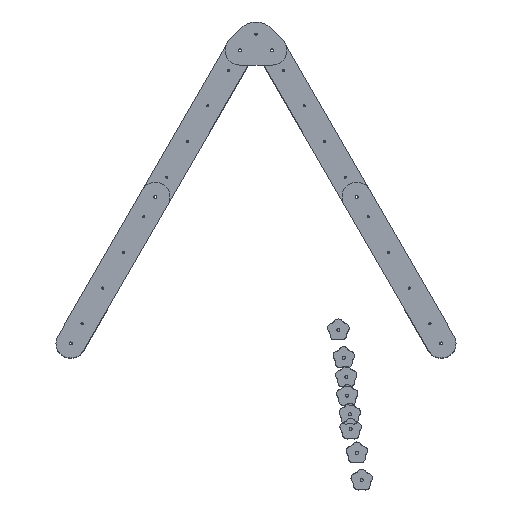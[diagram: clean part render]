
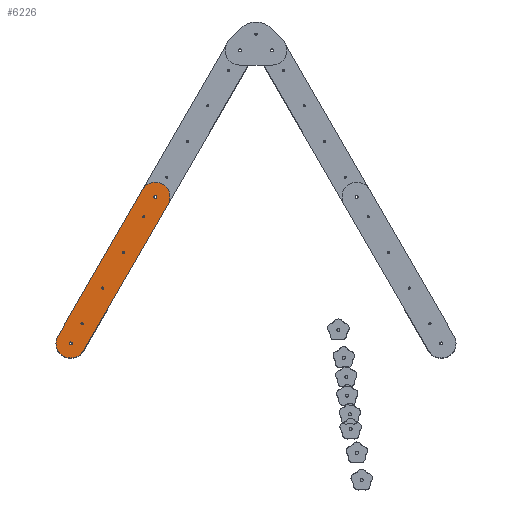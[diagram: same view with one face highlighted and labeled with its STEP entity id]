
A CAD part, top view. The second image highlights one B-rep face of the part: STEP entity #6226.
In plain terms, the highlighted planar face has unit normal (0, 0, 1).
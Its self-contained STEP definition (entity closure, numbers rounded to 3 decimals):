
#226=FACE_BOUND('',#738,.T.);
#227=FACE_BOUND('',#739,.T.);
#228=FACE_BOUND('',#740,.T.);
#229=FACE_BOUND('',#741,.T.);
#230=FACE_BOUND('',#742,.T.);
#231=FACE_BOUND('',#743,.T.);
#287=PLANE('',#6915);
#365=FACE_OUTER_BOUND('',#737,.T.);
#737=EDGE_LOOP('',(#4127,#4128,#4129,#4130));
#738=EDGE_LOOP('',(#4131));
#739=EDGE_LOOP('',(#4132));
#740=EDGE_LOOP('',(#4133));
#741=EDGE_LOOP('',(#4134));
#742=EDGE_LOOP('',(#4135));
#743=EDGE_LOOP('',(#4136));
#1151=LINE('',#10315,#1506);
#1153=LINE('',#10319,#1508);
#1506=VECTOR('',#8006,10.);
#1508=VECTOR('',#8010,10.);
#1859=CIRCLE('',#6848,3.);
#1860=CIRCLE('',#6850,3.);
#1861=CIRCLE('',#6852,3.);
#1862=CIRCLE('',#6854,3.);
#1863=CIRCLE('',#6856,4.);
#1865=CIRCLE('',#6859,4.);
#1917=CIRCLE('',#6913,40.);
#1918=CIRCLE('',#6916,40.);
#2436=VERTEX_POINT('',#10175);
#2437=VERTEX_POINT('',#10179);
#2438=VERTEX_POINT('',#10183);
#2439=VERTEX_POINT('',#10187);
#2440=VERTEX_POINT('',#10191);
#2442=VERTEX_POINT('',#10197);
#2496=VERTEX_POINT('',#10308);
#2497=VERTEX_POINT('',#10309);
#2498=VERTEX_POINT('',#10314);
#2499=VERTEX_POINT('',#10318);
#3075=EDGE_CURVE('',#2436,#2436,#1859,.T.);
#3077=EDGE_CURVE('',#2437,#2437,#1860,.T.);
#3079=EDGE_CURVE('',#2438,#2438,#1861,.T.);
#3081=EDGE_CURVE('',#2439,#2439,#1862,.T.);
#3083=EDGE_CURVE('',#2440,#2440,#1863,.T.);
#3086=EDGE_CURVE('',#2442,#2442,#1865,.T.);
#3141=EDGE_CURVE('',#2496,#2497,#1917,.T.);
#3144=EDGE_CURVE('',#2498,#2497,#1151,.T.);
#3146=EDGE_CURVE('',#2496,#2499,#1153,.T.);
#3147=EDGE_CURVE('',#2498,#2499,#1918,.T.);
#4127=ORIENTED_EDGE('',*,*,#3141,.F.);
#4128=ORIENTED_EDGE('',*,*,#3146,.T.);
#4129=ORIENTED_EDGE('',*,*,#3147,.F.);
#4130=ORIENTED_EDGE('',*,*,#3144,.T.);
#4131=ORIENTED_EDGE('',*,*,#3075,.T.);
#4132=ORIENTED_EDGE('',*,*,#3077,.T.);
#4133=ORIENTED_EDGE('',*,*,#3079,.T.);
#4134=ORIENTED_EDGE('',*,*,#3081,.T.);
#4135=ORIENTED_EDGE('',*,*,#3083,.T.);
#4136=ORIENTED_EDGE('',*,*,#3086,.T.);
#6226=ADVANCED_FACE('',(#365,#226,#227,#228,#229,#230,#231),#287,.T.);
#6848=AXIS2_PLACEMENT_3D('',#10176,#7862,#7863);
#6850=AXIS2_PLACEMENT_3D('',#10180,#7867,#7868);
#6852=AXIS2_PLACEMENT_3D('',#10184,#7872,#7873);
#6854=AXIS2_PLACEMENT_3D('',#10188,#7877,#7878);
#6856=AXIS2_PLACEMENT_3D('',#10192,#7882,#7883);
#6859=AXIS2_PLACEMENT_3D('',#10198,#7889,#7890);
#6913=AXIS2_PLACEMENT_3D('',#10310,#8000,#8001);
#6915=AXIS2_PLACEMENT_3D('',#10317,#8008,#8009);
#6916=AXIS2_PLACEMENT_3D('',#10320,#8011,#8012);
#7862=DIRECTION('center_axis',(0.,0.,-1.));
#7863=DIRECTION('ref_axis',(1.,0.,0.));
#7867=DIRECTION('center_axis',(0.,0.,-1.));
#7868=DIRECTION('ref_axis',(1.,0.,0.));
#7872=DIRECTION('center_axis',(0.,0.,-1.));
#7873=DIRECTION('ref_axis',(1.,0.,0.));
#7877=DIRECTION('center_axis',(0.,0.,-1.));
#7878=DIRECTION('ref_axis',(1.,0.,0.));
#7882=DIRECTION('center_axis',(0.,0.,-1.));
#7883=DIRECTION('ref_axis',(1.,0.,0.));
#7889=DIRECTION('center_axis',(0.,0.,-1.));
#7890=DIRECTION('ref_axis',(1.,0.,0.));
#8000=DIRECTION('center_axis',(0.,0.,-1.));
#8001=DIRECTION('ref_axis',(-0.707,-0.707,0.));
#8006=DIRECTION('',(-1.,0.,0.));
#8008=DIRECTION('center_axis',(0.,0.,1.));
#8009=DIRECTION('ref_axis',(1.,0.,0.));
#8010=DIRECTION('',(1.,0.,0.));
#8011=DIRECTION('center_axis',(0.,0.,-1.));
#8012=DIRECTION('ref_axis',(0.707,-0.707,0.));
#10175=CARTESIAN_POINT('',(-171.,0.,9.));
#10176=CARTESIAN_POINT('Origin',(-168.,0.,9.));
#10179=CARTESIAN_POINT('',(-59.,0.,9.));
#10180=CARTESIAN_POINT('Origin',(-56.,0.,9.));
#10183=CARTESIAN_POINT('',(53.,0.,9.));
#10184=CARTESIAN_POINT('Origin',(56.,0.,9.));
#10187=CARTESIAN_POINT('',(165.,0.,9.));
#10188=CARTESIAN_POINT('Origin',(168.,0.,9.));
#10191=CARTESIAN_POINT('',(-234.,0.,9.));
#10192=CARTESIAN_POINT('Origin',(-230.,0.,9.));
#10197=CARTESIAN_POINT('',(226.,0.,9.));
#10198=CARTESIAN_POINT('Origin',(230.,0.,9.));
#10308=CARTESIAN_POINT('',(-230.,-40.,9.));
#10309=CARTESIAN_POINT('',(-230.,40.,9.));
#10310=CARTESIAN_POINT('Origin',(-230.,0.,9.));
#10314=CARTESIAN_POINT('',(230.,40.,9.));
#10315=CARTESIAN_POINT('',(270.,40.,9.));
#10317=CARTESIAN_POINT('Origin',(0.,0.,9.));
#10318=CARTESIAN_POINT('',(230.,-40.,9.));
#10319=CARTESIAN_POINT('',(-270.,-40.,9.));
#10320=CARTESIAN_POINT('Origin',(230.,0.,9.));
